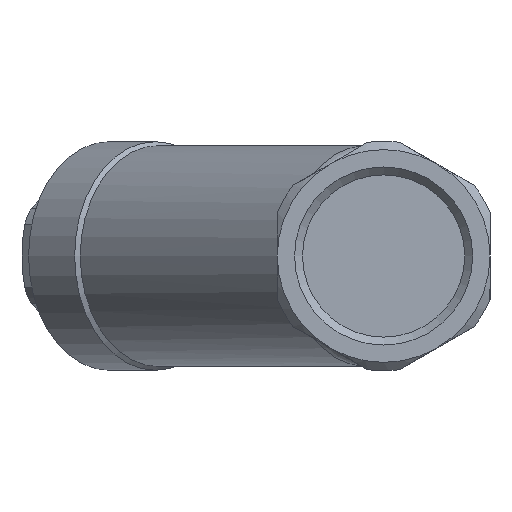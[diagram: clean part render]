
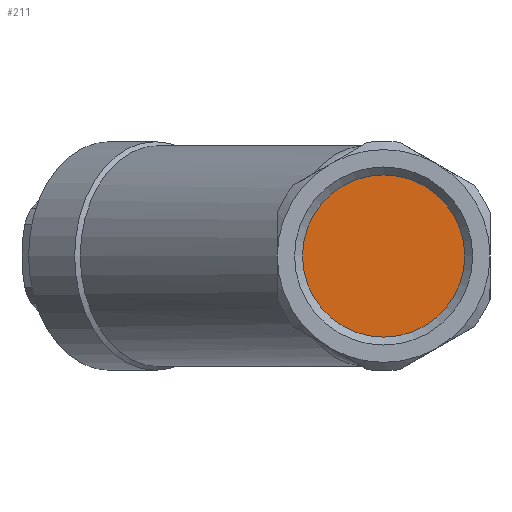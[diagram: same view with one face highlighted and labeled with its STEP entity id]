
A CAD part, left-side view. The second image highlights one B-rep face of the part: STEP entity #211.
In plain terms, the highlighted planar face has unit normal (-1, 0, 0).
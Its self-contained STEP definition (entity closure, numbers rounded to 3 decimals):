
#211 = ADVANCED_FACE ( 'NONE', ( #2458 ), #1940, .T. ) ;
#576 = EDGE_LOOP ( 'NONE', ( #1078 ) ) ;
#638 = VERTEX_POINT ( 'NONE', #1244 ) ;
#774 = AXIS2_PLACEMENT_3D ( 'NONE', #2491, #2493, #2495 ) ;
#976 = DIRECTION ( 'NONE',  ( 0., 0., 1. ) ) ;
#981 = DIRECTION ( 'NONE',  ( -1., 0., 0. ) ) ;
#1021 = CARTESIAN_POINT ( 'NONE',  ( -29., 15.25, 0. ) ) ;
#1078 = ORIENTED_EDGE ( 'NONE', *, *, #2108, .T. ) ;
#1192 = AXIS2_PLACEMENT_3D ( 'NONE', #1021, #981, #976 ) ;
#1244 = CARTESIAN_POINT ( 'NONE',  ( -29., 0., 15.25 ) ) ;
#1293 = CIRCLE ( 'NONE', #774, 15.25 ) ;
#1940 = PLANE ( 'NONE',  #1192 ) ;
#2108 = EDGE_CURVE ( 'NONE', #638, #638, #1293, .T. ) ;
#2458 = FACE_OUTER_BOUND ( 'NONE', #576, .T. ) ;
#2491 = CARTESIAN_POINT ( 'NONE',  ( -29., 0., 0. ) ) ;
#2493 = DIRECTION ( 'NONE',  ( -1., 0., 0. ) ) ;
#2495 = DIRECTION ( 'NONE',  ( 0., 0., 1. ) ) ;
